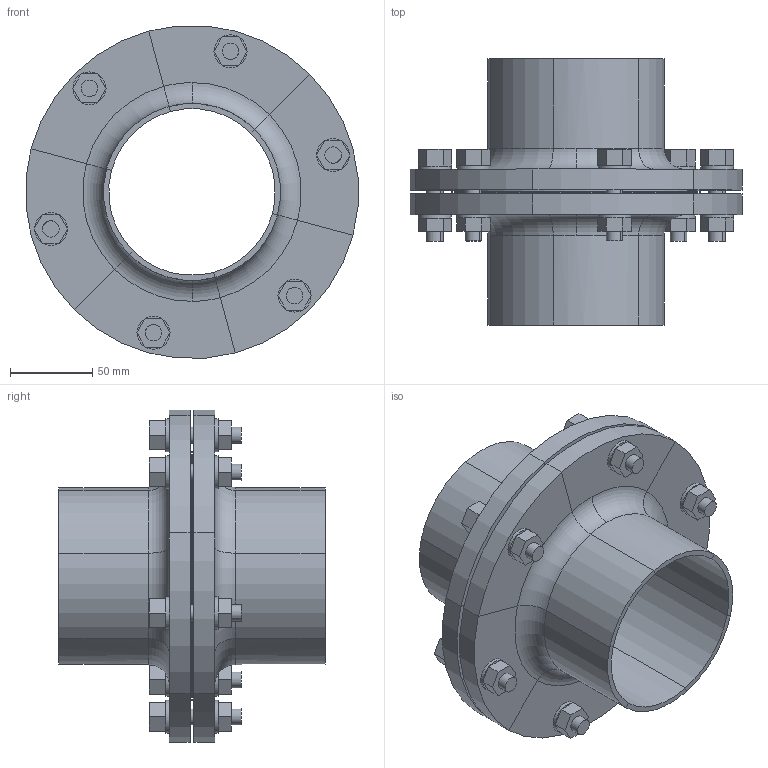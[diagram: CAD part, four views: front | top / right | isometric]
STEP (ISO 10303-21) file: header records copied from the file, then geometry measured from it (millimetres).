
FILE_DESCRIPTION( ( 'STEP Version 203' ), '1' );
FILE_NAME( 'E:/Rakesh/temp/Bolted Joint/Bolted Joint.stp', '11/06/20 12:33:48', ( 'patilr' ), ( ' ' ), 'PSStep 21.0.47', 'DesignModeler STEP Output', ' ' );
FILE_SCHEMA( ( 'AUTOMOTIVE_DESIGN { 1 0 10303 214 1 1 1 1 }' ) );
Length unit declared in the file: metre
Products named in the file (42): Solid; 1; 2; 3; 4; 5; 6; 7; 8; 9; 10; 11; 12
Bounding box: 202.43 x 162.39 x 202.43 mm (x, y, z)
Volume: 846464.6 mm3; surface area: 281156.4 mm2
Topology: 42 solids, 42 shells, 370 faces, 900 edges, 620 vertices
Faces by surface type: plane 222, cylinder 132, torus 16
Full cylindrical faces by diameter (mm): 10 x12, 20 x12
Entity records: 14034 total; most frequent: DIRECTION 2048, CARTESIAN_POINT 1908, ORIENTED_EDGE 1752, EDGE_CURVE 876, AXIS2_PLACEMENT_3D 760, VERTEX_POINT 620, LINE 528, VECTOR 528
